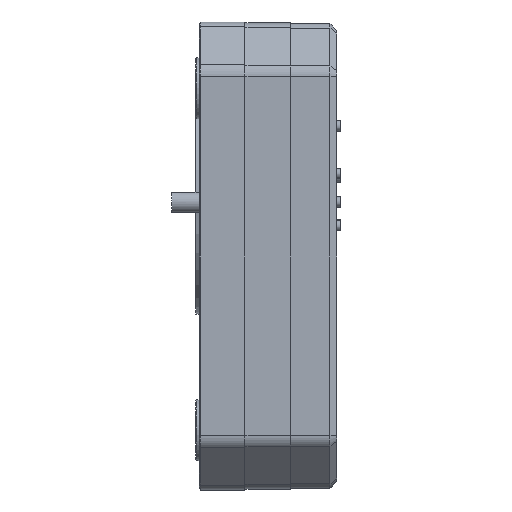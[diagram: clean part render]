
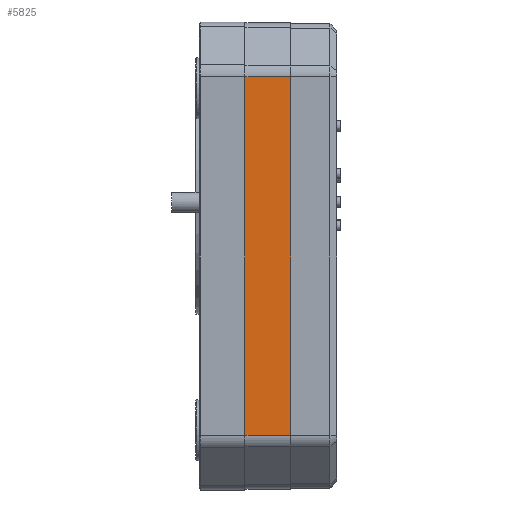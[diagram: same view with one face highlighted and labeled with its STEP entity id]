
A CAD part, front view. The second image highlights one B-rep face of the part: STEP entity #5825.
In plain terms, the highlighted planar face has unit normal (0, -1, 0).
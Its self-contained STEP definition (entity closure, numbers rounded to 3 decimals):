
#4567=FACE_OUTER_BOUND('',#11748,.T.);
#5825=ADVANCED_FACE('',(#4567),#7116,.T.);
#7116=PLANE('',#33650);
#11748=EDGE_LOOP('',(#15643,#15644,#15645,#15646));
#15643=ORIENTED_EDGE('',*,*,#26614,.F.);
#15644=ORIENTED_EDGE('',*,*,#26591,.F.);
#15645=ORIENTED_EDGE('',*,*,#26617,.T.);
#15646=ORIENTED_EDGE('',*,*,#26618,.T.);
#22977=VERTEX_POINT('',#47893);
#22978=VERTEX_POINT('',#47895);
#23000=VERTEX_POINT('',#48107);
#23002=VERTEX_POINT('',#48113);
#26591=EDGE_CURVE('',#22977,#22978,#30009,.T.);
#26614=EDGE_CURVE('',#22978,#23000,#30010,.T.);
#26617=EDGE_CURVE('',#22977,#23002,#30012,.T.);
#26618=EDGE_CURVE('',#23002,#23000,#30013,.T.);
#30009=LINE('',#47894,#31687);
#30010=LINE('',#48106,#31688);
#30012=LINE('',#48112,#31690);
#30013=LINE('',#48114,#31691);
#31687=VECTOR('',#36905,1.);
#31688=VECTOR('',#36984,1.);
#31690=VECTOR('',#36990,1.);
#31691=VECTOR('',#36991,1.);
#33650=AXIS2_PLACEMENT_3D('',#48115,#36992,#36993);
#36905=DIRECTION('',(0.,0.,-1.));
#36984=DIRECTION('',(-1.,0.,0.));
#36990=DIRECTION('',(-1.,0.,0.));
#36991=DIRECTION('',(0.,0.,-1.));
#36992=DIRECTION('',(0.,-1.,0.));
#36993=DIRECTION('',(1.,0.,0.));
#47893=CARTESIAN_POINT('',(27.,0.25,121.529));
#47894=CARTESIAN_POINT('',(27.,0.25,14.171));
#47895=CARTESIAN_POINT('',(27.,0.25,16.071));
#48106=CARTESIAN_POINT('',(13.5,0.25,16.071));
#48107=CARTESIAN_POINT('',(13.5,0.25,16.071));
#48112=CARTESIAN_POINT('',(13.5,0.25,121.529));
#48113=CARTESIAN_POINT('',(13.5,0.25,121.529));
#48114=CARTESIAN_POINT('',(13.5,0.25,121.529));
#48115=CARTESIAN_POINT('',(13.5,0.25,121.529));
